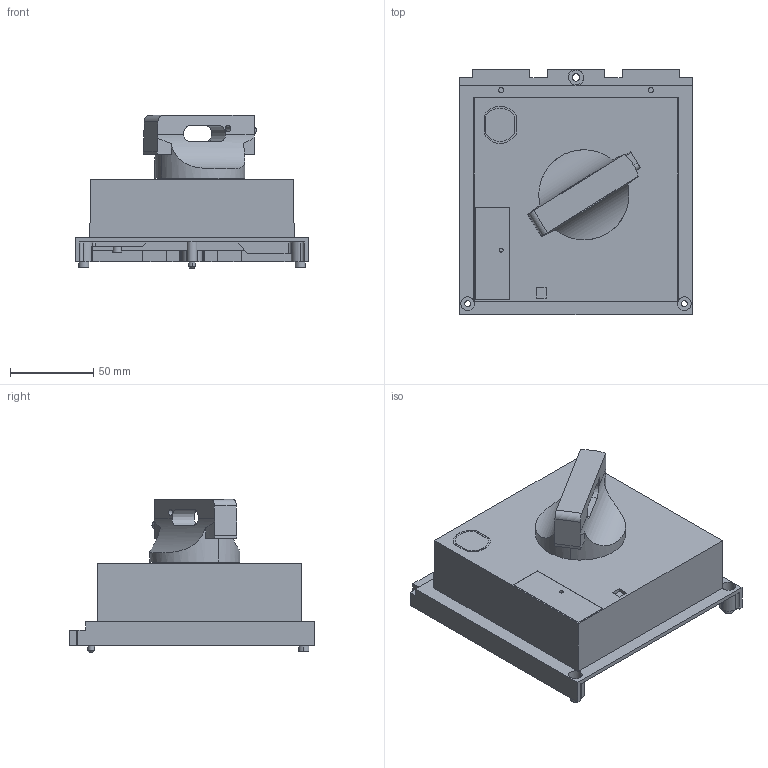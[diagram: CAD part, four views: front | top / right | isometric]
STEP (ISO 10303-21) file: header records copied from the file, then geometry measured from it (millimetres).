
FILE_DESCRIPTION((''),'2;1');
FILE_NAME('LV432597T-3D_ASM','2021-05-19T17:12:04',('SESA530330'),('Schneider-Electric'),'CREO PARAMETRIC BY PTC INC, 2019164','CREO PARAMETRIC BY PTC INC, 2019164','');
FILE_SCHEMA(('CONFIG_CONTROL_DESIGN'));
Length unit declared in the file: millimetre
Products named in the file (4): 127_C2-DRH_1; KNOB-02_1; 127_C2-DRH-3D_ASM_1_ASM; LV432597T-3D_ASM
Assembly tree (3 placements, depth 3):
  LV432597T-3D_ASM
    127_C2-DRH-3D_ASM_1_ASM
      127_C2-DRH_1
      KNOB-02_1
Bounding box: 140 x 148 x 92.22 mm (x, y, z)
Volume: 153096.3 mm3; surface area: 100881.3 mm2
Topology: 2 solids, 2 shells, 212 faces, 605 edges, 411 vertices
Faces by surface type: plane 132, cylinder 65, extrusion 13, cone 2
Entity records: 7414 total; most frequent: CARTESIAN_POINT 1648, ORIENTED_EDGE 1210, DIRECTION 1150, EDGE_CURVE 605, VERTEX_POINT 411, VECTOR 402, LINE 389, AXIS2_PLACEMENT_3D 374
